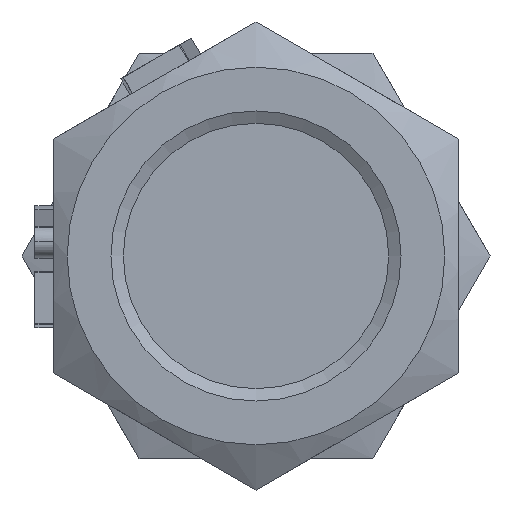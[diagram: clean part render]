
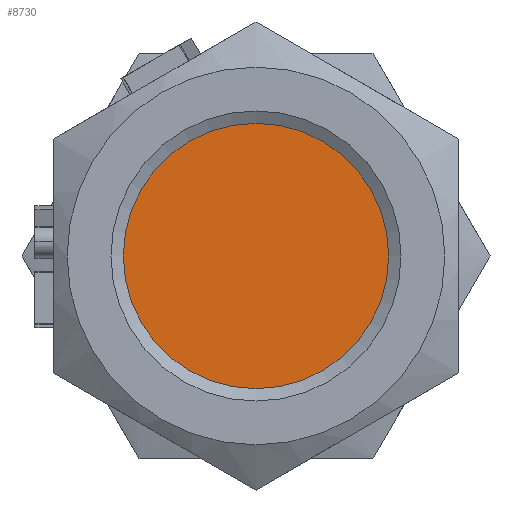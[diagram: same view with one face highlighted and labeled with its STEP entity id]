
A CAD part, front view. The second image highlights one B-rep face of the part: STEP entity #8730.
In plain terms, the highlighted planar face has unit normal (0, -1, 0).
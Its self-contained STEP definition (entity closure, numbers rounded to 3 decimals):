
#2553=FACE_OUTER_BOUND('',#3050,.T.);
#3050=EDGE_LOOP('',(#5836));
#3554=CIRCLE('',#9229,7.2);
#3607=VERTEX_POINT('',#11680);
#4493=EDGE_CURVE('',#3607,#3607,#3554,.T.);
#5836=ORIENTED_EDGE('',*,*,#4493,.F.);
#8356=PLANE('',#9228);
#8730=ADVANCED_FACE('',(#2553),#8356,.T.);
#9228=AXIS2_PLACEMENT_3D('',#11679,#9686,#9687);
#9229=AXIS2_PLACEMENT_3D('',#11681,#9688,#9689);
#9686=DIRECTION('center_axis',(0.,-1.,0.));
#9687=DIRECTION('ref_axis',(0.,0.,-1.));
#9688=DIRECTION('center_axis',(0.,1.,0.));
#9689=DIRECTION('ref_axis',(-1.,0.,0.));
#11679=CARTESIAN_POINT('Origin',(-6.85,11.,0.));
#11680=CARTESIAN_POINT('',(-7.2,11.,0.));
#11681=CARTESIAN_POINT('Origin',(0.,11.,0.));
